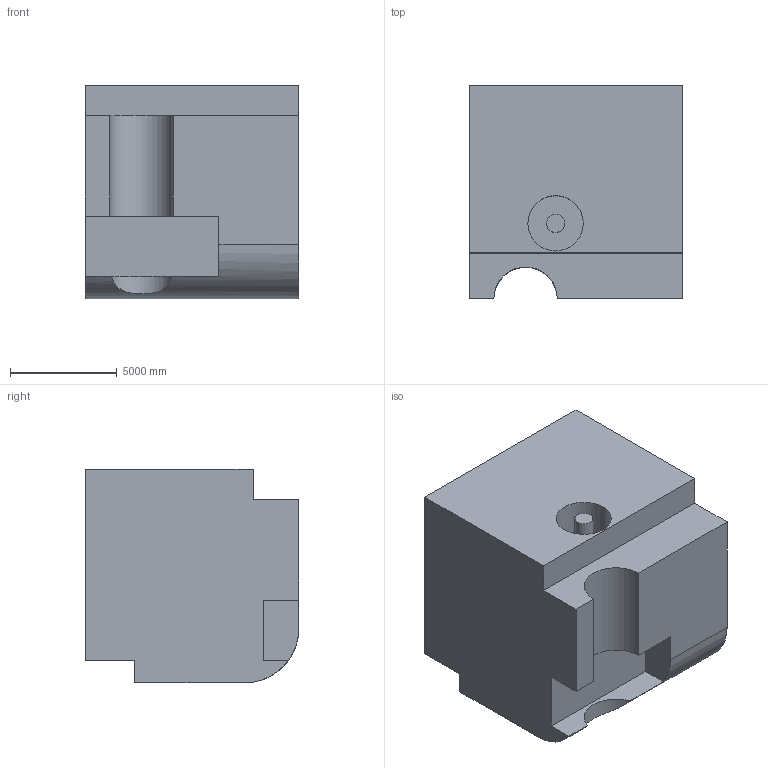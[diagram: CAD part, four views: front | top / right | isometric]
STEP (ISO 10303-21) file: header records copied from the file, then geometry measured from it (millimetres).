
FILE_DESCRIPTION (( 'STEP AP203' ), '1' );
FILE_NAME ('691.STEP', '2022-07-29T12:33:18', ( 'user' ), ( '' ), 'SwSTEP 2.0', 'SolidWorks 2021', '' );
FILE_SCHEMA (( 'CONFIG_CONTROL_DESIGN' ));
Length unit declared in the file: centimetre
Products named in the file (1): 691
Bounding box: 10000 x 10000 x 10000 mm (x, y, z)
Volume: 840441551927.4 mm3; surface area: 684961681.2 mm2
Topology: 1 solids, 1 shells, 31 faces, 78 edges, 52 vertices
Faces by surface type: plane 24, cylinder 7
Entity records: 1136 total; most frequent: CARTESIAN_POINT 297, ORIENTED_EDGE 156, DIRECTION 155, EDGE_CURVE 78, LINE 63, VECTOR 63, VERTEX_POINT 52, AXIS2_PLACEMENT_3D 46
